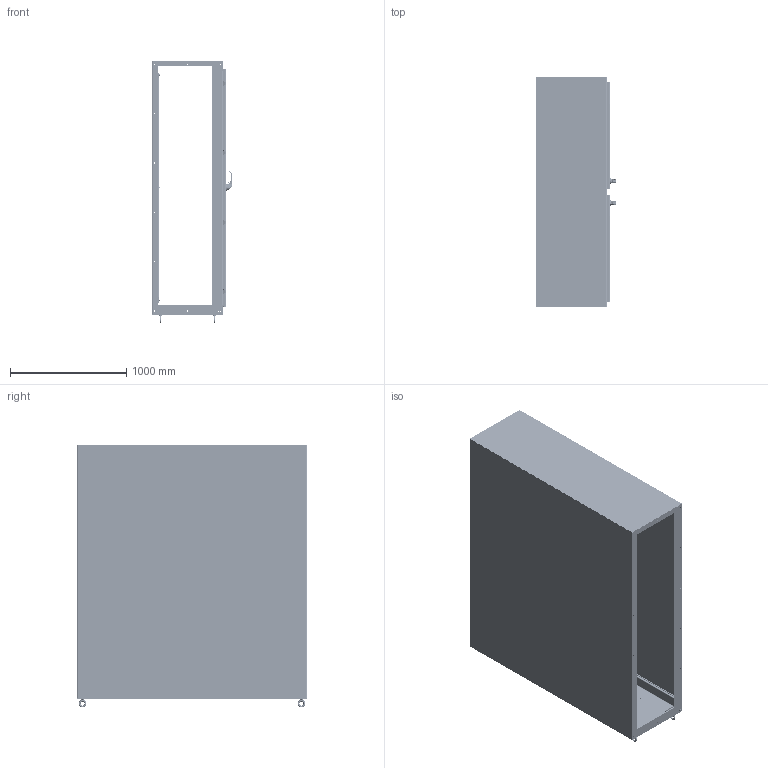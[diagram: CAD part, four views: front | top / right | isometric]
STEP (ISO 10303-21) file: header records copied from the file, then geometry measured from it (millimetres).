
FILE_DESCRIPTION((''),'2;1');
FILE_NAME('MODEL-462_ASM','2026-04-29T14:20:52',('andrew.knowlton'),('SAGINAW CONTROL & ENGINEERING'),'CREO PARAMETRIC BY PTC INC, 2021284','CREO PARAMETRIC BY PTC INC, 2021284','');
FILE_SCHEMA(('AUTOMOTIVE_DESIGN { 1 0 10303 214 1 1 1 1 }'));
Length unit declared in the file: inch
Products named in the file (97): MODEL-462-L-SD; MODEL-462-TP; MODEL-462-R-SD; MODEL-462-BTM; MODEL-462-RH-DR; 100837; 100957_SCREW_MTG; 100957_PADLOCK_CATCH; 100957_SCREW_LARGE; 100957_INSERT_SHAFT; 100957_INSERT_PH; 100957_GASKET; 100957_O-RING; 100957_BASE; 100957_SPRING; 100957_HANDLE; 100957_CAM_SHAFT; 100957_HANDLE_ASM; 100957_CAM_ADAPTER; 100957_EARTH_NUT; 100957_FLANGE_NUT; 100957_CAM_NUT; 100957_ASM; 102236; 100030; 102236_ASM; MODEL-462-ROD-RH-UPR; 128146; 128145; 128144; 102482; MODEL-462-ROD-RH-UPR_ASM; 128143; 100882; 112504; MODEL-462-ROD-RH-LWR; MODEL-462-ROD-RH-LWR_ASM; MODEL-462-PR-GSKT-RH; 128258; 128258_ASM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
Assembly tree (238 placements, depth 5):
  MODEL-462_ASM
    MODEL-462-L-SD
    MODEL-462-TP
    MODEL-462-R-SD
    MODEL-462-BTM
    MODEL-462-RH-DOOR-ASSY_ASM
      MODEL-462-RH-DR
      100837  x3
      100957_ASM
        100957_SCREW_MTG
        100957_PADLOCK_CATCH
        100957_SCREW_LARGE  x2
        100957_INSERT_SHAFT
        100957_INSERT_PH
        100957_GASKET
        100957_O-RING
        100957_BASE
        100957_SPRING
        100957_HANDLE_ASM
          100957_HANDLE
          100957_CAM_SHAFT
        100957_CAM_ADAPTER
        100957_EARTH_NUT
        100957_FLANGE_NUT
        100957_CAM_NUT
      102236_ASM
        102236
        100030  x2
      MODEL-462-ROD-RH-UPR_ASM
        MODEL-462-ROD-RH-UPR
        128146
        128145
        128144
        102482  x2
      128143  x2
      100882  x10
      112504  x2
      MODEL-462-ROD-RH-LWR_ASM
        MODEL-462-ROD-RH-LWR
        128146
        128145
        128144
        102482  x2
      MODEL-462-PR-GSKT-RH
      128258_ASM  x4
        128258
      126395  x4
      102483  x4
      101383_ASM  x4
        101383
        101383-STUD
      101221  x4
      125597
    MODEL-462-LH-DOOR-ASSY_ASM
      MODEL-462-LH-DR
      100837  x3
      100957_ASM
        100957_SCREW_MTG
        100957_PADLOCK_CATCH
        100957_SCREW_LARGE  x2
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Bounding box: 687.67 x 1974.85 x 2259.2 mm (x, y, z)
Volume: 49452767 mm3; surface area: 35351558.7 mm2
Topology: 281 solids, 281 shells, 26770 faces, 67818 edges, 41679 vertices
Faces by surface type: plane 9116, cylinder 7286, bspline 5721, torus 2159, cone 1305, sphere 802, extrusion 381
Entity records: 609593 total; most frequent: CARTESIAN_POINT 279437, ORIENTED_EDGE 50010, DIRECTION 46294, PRESENTATION_STYLE_ASSIGNMENT 25919, STYLED_ITEM 25889, CURVE_STYLE 25005, EDGE_CURVE 25005, AXIS2_PLACEMENT_3D 17044
